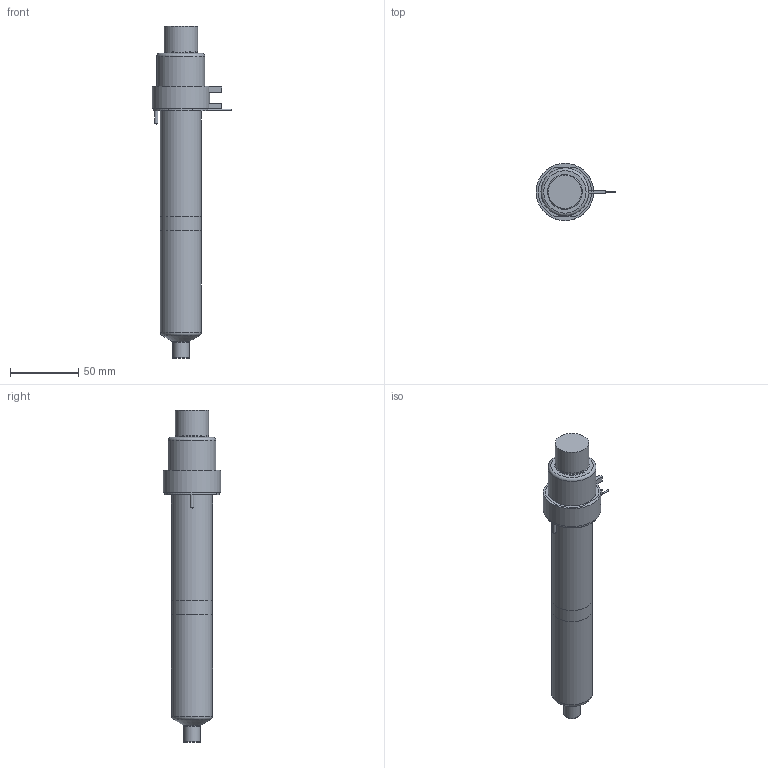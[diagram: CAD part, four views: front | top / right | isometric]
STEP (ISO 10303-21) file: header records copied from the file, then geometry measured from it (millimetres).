
FILE_DESCRIPTION(/* description */ (''),/* implementation_level */ '2;1');
FILE_NAME(/* name */ 'SXTSN-SXISN-SXOSN16175_200C_b',/* time_stamp */ '2007-01-24T17:17:50+13:00',/* author */ (''),/* organization */ (''),/* preprocessor_version */ 'ST-DEVELOPER v9',/* originating_system */ 'UGS - NX 4.0',/* authorisation */ '');
FILE_SCHEMA (('CONFIG_CONTROL_DESIGN'));
Length unit declared in the file: millimetre
Products named in the file (1): SXTSN-SXISN-SXOSN16175_200C_b
Bounding box: 58.25 x 42 x 242.68 mm (x, y, z)
Volume: 307916.5 mm3; surface area: 50043.2 mm2
Topology: 7 solids, 7 shells, 92 faces, 180 edges, 116 vertices
Faces by surface type: plane 45, cylinder 28, cone 9, torus 9, bspline 1
Full cylindrical faces by diameter (mm): 1 x4, 2.5 x2, 7 x1, 11.61 x1, 12.01 x2, 14.8 x1, 24 x1, 24.4 x1, 25.4 x1, 30 x2, 31.8 x1, 35 x1, 40 x1, 42 x1
Entity records: 2250 total; most frequent: CARTESIAN_POINT 438, DIRECTION 382, ORIENTED_EDGE 268, AXIS2_PLACEMENT_3D 166, EDGE_LOOP 142, EDGE_CURVE 134, VERTEX_POINT 107, ADVANCED_FACE 92
